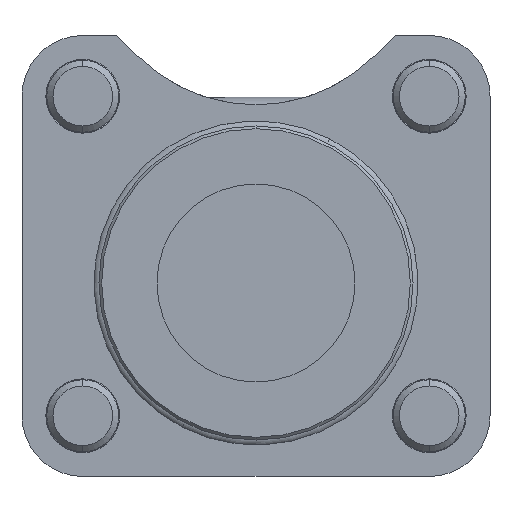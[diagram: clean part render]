
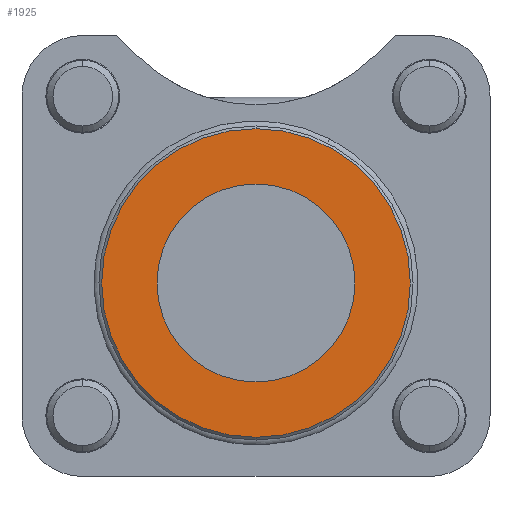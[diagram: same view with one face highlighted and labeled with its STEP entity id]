
A CAD part, front view. The second image highlights one B-rep face of the part: STEP entity #1925.
In plain terms, the highlighted planar face has unit normal (0, -1, 0).
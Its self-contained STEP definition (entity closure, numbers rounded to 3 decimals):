
#953 = EDGE_CURVE ( 'NONE', #6841, #6832, #2607, .T. ) ;
#954 = EDGE_CURVE ( 'NONE', #6825, #6822, #2608, .T. ) ;
#1026 = EDGE_CURVE ( 'NONE', #6822, #6825, #2701, .T. ) ;
#1186 = EDGE_CURVE ( 'NONE', #6832, #6841, #2939, .T. ) ;
#1349 = AXIS2_PLACEMENT_3D ( 'NONE', #6193, #6175, #6614 ) ;
#1350 = AXIS2_PLACEMENT_3D ( 'NONE', #6195, #6197, #6207 ) ;
#1392 = AXIS2_PLACEMENT_3D ( 'NONE', #5986, #5131, #5309 ) ;
#1450 = AXIS2_PLACEMENT_3D ( 'NONE', #5687, #5891, #5892 ) ;
#1604 = AXIS2_PLACEMENT_3D ( 'NONE', #3393, #3396, #3397 ) ;
#1925 = ADVANCED_FACE ( 'NONE', ( #4310, #4323 ), #3394, .T. ) ;
#2221 = EDGE_LOOP ( 'NONE', ( #6871, #6874 ) ) ;
#2279 = EDGE_LOOP ( 'NONE', ( #6873, #6868 ) ) ;
#2607 = CIRCLE ( 'NONE', #1349, 17.15 ) ;
#2608 = CIRCLE ( 'NONE', #1350, 11. ) ;
#2701 = CIRCLE ( 'NONE', #1392, 11. ) ;
#2939 = CIRCLE ( 'NONE', #1450, 17.15 ) ;
#3393 = CARTESIAN_POINT ( 'NONE',  ( 0., 0., -49. ) ) ;
#3394 = PLANE ( 'NONE',  #1604 ) ;
#3396 = DIRECTION ( 'NONE',  ( 0., -1., 0. ) ) ;
#3397 = DIRECTION ( 'NONE',  ( 0., 0., -1. ) ) ;
#3976 = CARTESIAN_POINT ( 'NONE',  ( 26., 0., -16.5 ) ) ;
#3979 = CARTESIAN_POINT ( 'NONE',  ( 26., 0., -38.5 ) ) ;
#3984 = CARTESIAN_POINT ( 'NONE',  ( 26., 0., -44.65 ) ) ;
#3987 = CARTESIAN_POINT ( 'NONE',  ( 26., 0., -10.35 ) ) ;
#4310 = FACE_OUTER_BOUND ( 'NONE', #2279, .T. ) ;
#4323 = FACE_BOUND ( 'NONE', #2221, .T. ) ;
#5131 = DIRECTION ( 'NONE',  ( 0., -1., 0. ) ) ;
#5309 = DIRECTION ( 'NONE',  ( 0., 0., -1. ) ) ;
#5687 = CARTESIAN_POINT ( 'NONE',  ( 26., 0., -27.5 ) ) ;
#5891 = DIRECTION ( 'NONE',  ( 0., -1., 0. ) ) ;
#5892 = DIRECTION ( 'NONE',  ( 0., 0., -1. ) ) ;
#5986 = CARTESIAN_POINT ( 'NONE',  ( 26., 0., -27.5 ) ) ;
#6175 = DIRECTION ( 'NONE',  ( 0., -1., 0. ) ) ;
#6193 = CARTESIAN_POINT ( 'NONE',  ( 26., 0., -27.5 ) ) ;
#6195 = CARTESIAN_POINT ( 'NONE',  ( 26., 0., -27.5 ) ) ;
#6197 = DIRECTION ( 'NONE',  ( 0., -1., 0. ) ) ;
#6207 = DIRECTION ( 'NONE',  ( 0., 0., -1. ) ) ;
#6614 = DIRECTION ( 'NONE',  ( 0., 0., -1. ) ) ;
#6822 = VERTEX_POINT ( 'NONE', #3976 ) ;
#6825 = VERTEX_POINT ( 'NONE', #3979 ) ;
#6832 = VERTEX_POINT ( 'NONE', #3984 ) ;
#6841 = VERTEX_POINT ( 'NONE', #3987 ) ;
#6868 = ORIENTED_EDGE ( 'NONE', *, *, #1186, .T. ) ;
#6871 = ORIENTED_EDGE ( 'NONE', *, *, #954, .F. ) ;
#6873 = ORIENTED_EDGE ( 'NONE', *, *, #953, .T. ) ;
#6874 = ORIENTED_EDGE ( 'NONE', *, *, #1026, .F. ) ;
